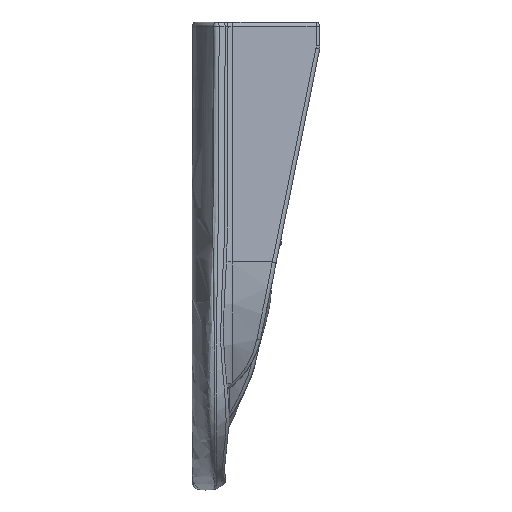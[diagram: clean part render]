
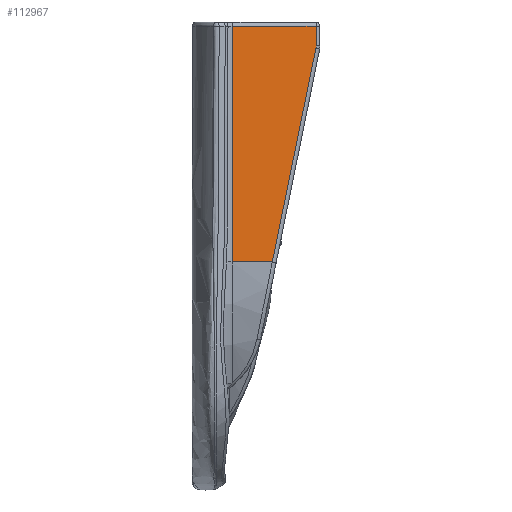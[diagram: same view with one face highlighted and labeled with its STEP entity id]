
A CAD part, left-side view. The second image highlights one B-rep face of the part: STEP entity #112967.
In plain terms, the highlighted planar face has unit normal (-0.996, -0.087, 0).
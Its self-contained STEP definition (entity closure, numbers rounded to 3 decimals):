
#1420 = VERTEX_POINT ( 'NONE', #131759 ) ;
#4114 = VERTEX_POINT ( 'NONE', #51827 ) ;
#5295 = VERTEX_POINT ( 'NONE', #115048 ) ;
#6552 = AXIS2_PLACEMENT_3D ( 'NONE', #24100, #60067, #71779 ) ;
#8396 = LINE ( 'NONE', #91308, #66931 ) ;
#10351 = ORIENTED_EDGE ( 'NONE', *, *, #45137, .F. ) ;
#14402 = LINE ( 'NONE', #62069, #100587 ) ;
#14959 = ORIENTED_EDGE ( 'NONE', *, *, #99055, .F. ) ;
#24100 = CARTESIAN_POINT ( 'NONE',  ( -461., 0., 0. ) ) ;
#29697 = VECTOR ( 'NONE', #43867, 1000. ) ;
#29883 = VECTOR ( 'NONE', #141615, 1000. ) ;
#31361 = CARTESIAN_POINT ( 'NONE',  ( -461., 0., 270. ) ) ;
#34266 = CARTESIAN_POINT ( 'NONE',  ( -461.163, 1.865, 244.023 ) ) ;
#39558 = CARTESIAN_POINT ( 'NONE',  ( -461.137, 1.564, 247.014 ) ) ;
#43867 = DIRECTION ( 'NONE',  ( 0.087, -0.996, 0. ) ) ;
#45137 = EDGE_CURVE ( 'NONE', #4114, #81352, #116638, .T. ) ;
#45889 = DIRECTION ( 'NONE',  ( 0., 0., 1. ) ) ;
#47266 = ORIENTED_EDGE ( 'NONE', *, *, #151238, .F. ) ;
#51827 = CARTESIAN_POINT ( 'NONE',  ( -469.77, 100.243, 270. ) ) ;
#58640 = LINE ( 'NONE', #93112, #29883 ) ;
#60067 = DIRECTION ( 'NONE',  ( -0.996, -0.087, 0. ) ) ;
#62069 = CARTESIAN_POINT ( 'NONE',  ( -465.326, 49.45, 10.138 ) ) ;
#64304 = CARTESIAN_POINT ( 'NONE',  ( -469.77, 100.243, -7.523 ) ) ;
#66931 = VECTOR ( 'NONE', #45889, 1000. ) ;
#71779 = DIRECTION ( 'NONE',  ( 0.087, -0.996, 0. ) ) ;
#81352 = VERTEX_POINT ( 'NONE', #137572 ) ;
#83500 = CARTESIAN_POINT ( 'NONE',  ( -461.137, 1.564, 247.014 ) ) ;
#83543 = PLANE ( 'NONE',  #6552 ) ;
#87078 = VERTEX_POINT ( 'NONE', #64304 ) ;
#87719 =( BOUNDED_CURVE ( )  B_SPLINE_CURVE ( 3, ( #83500, #129759, #107761, #34266 ),
 .UNSPECIFIED., .F., .T. ) 
 B_SPLINE_CURVE_WITH_KNOTS ( ( 4, 4 ),
 ( 3.142, 3.342 ),
 .UNSPECIFIED. ) 
 CURVE ( )  GEOMETRIC_REPRESENTATION_ITEM ( )  RATIONAL_B_SPLINE_CURVE ( ( 1., 0.997, 0.997, 1. ) ) 
 REPRESENTATION_ITEM ( '' )  );
#91308 = CARTESIAN_POINT ( 'NONE',  ( -469.77, 100.243, 275. ) ) ;
#92298 = ORIENTED_EDGE ( 'NONE', *, *, #130880, .F. ) ;
#93112 = CARTESIAN_POINT ( 'NONE',  ( -461.137, 1.564, 247.014 ) ) ;
#98068 = DIRECTION ( 'NONE',  ( -0.017, 0.199, -0.98 ) ) ;
#99055 = EDGE_CURVE ( 'NONE', #1420, #5295, #14402, .T. ) ;
#100587 = VECTOR ( 'NONE', #98068, 1000. ) ;
#100638 = EDGE_CURVE ( 'NONE', #87078, #5295, #129124, .T. ) ;
#105505 = ORIENTED_EDGE ( 'NONE', *, *, #100638, .T. ) ;
#107761 = CARTESIAN_POINT ( 'NONE',  ( -461.146, 1.665, 245.008 ) ) ;
#107804 = FACE_OUTER_BOUND ( 'NONE', #118426, .T. ) ;
#112967 = ADVANCED_FACE ( 'NONE', ( #107804 ), #83543, .T. ) ;
#115048 = CARTESIAN_POINT ( 'NONE',  ( -465.641, 53.043, -7.523 ) ) ;
#116638 = LINE ( 'NONE', #31361, #29697 ) ;
#118426 = EDGE_LOOP ( 'NONE', ( #47266, #105505, #14959, #135853, #92298, #10351 ) ) ;
#129124 = LINE ( 'NONE', #153366, #141922 ) ;
#129759 = CARTESIAN_POINT ( 'NONE',  ( -461.137, 1.564, 246.009 ) ) ;
#130880 = EDGE_CURVE ( 'NONE', #81352, #140606, #58640, .T. ) ;
#131759 = CARTESIAN_POINT ( 'NONE',  ( -461.163, 1.865, 244.023 ) ) ;
#134463 = EDGE_CURVE ( 'NONE', #140606, #1420, #87719, .T. ) ;
#135853 = ORIENTED_EDGE ( 'NONE', *, *, #134463, .F. ) ;
#137572 = CARTESIAN_POINT ( 'NONE',  ( -461.137, 1.564, 270. ) ) ;
#140606 = VERTEX_POINT ( 'NONE', #39558 ) ;
#141615 = DIRECTION ( 'NONE',  ( 0., 0., -1. ) ) ;
#141922 = VECTOR ( 'NONE', #151818, 1000. ) ;
#151238 = EDGE_CURVE ( 'NONE', #87078, #4114, #8396, .T. ) ;
#151818 = DIRECTION ( 'NONE',  ( 0.087, -0.996, 0. ) ) ;
#153366 = CARTESIAN_POINT ( 'NONE',  ( -461., 0., -7.523 ) ) ;
